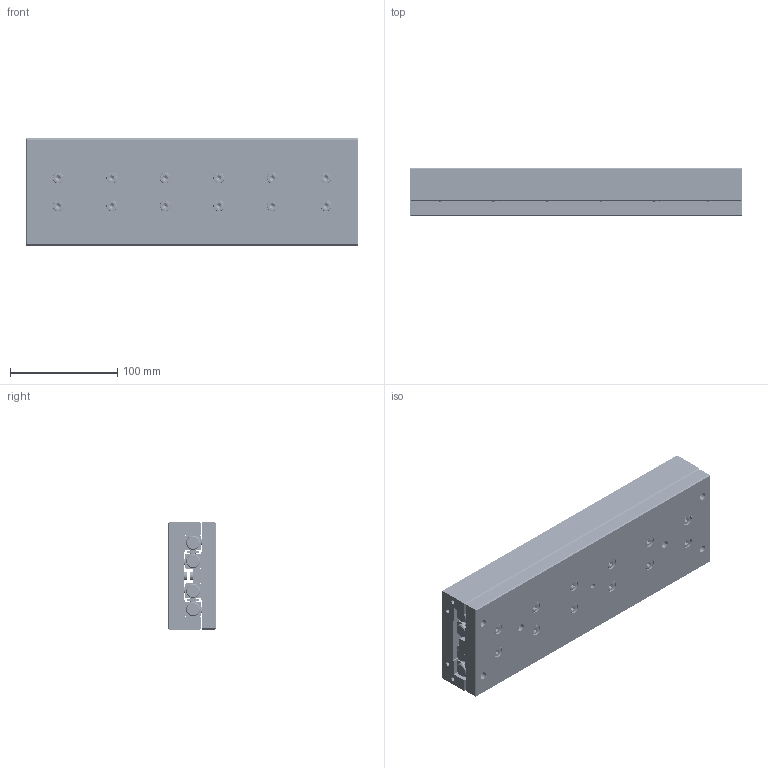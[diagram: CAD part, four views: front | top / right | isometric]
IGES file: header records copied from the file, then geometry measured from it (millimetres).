
Start section: SolidWorks IGES file using analytic representation for surfaces
Global section: file name: C:\Documents and Settings\IanO.IANOHOME\My Documents\Wix and Auto CAD Work\CAD Models\Parametric Models\Auto Models\L1020\L1020_IGES\L1020.100-310.igs; native system: SolidWorks 2009; preprocessor: SolidWorks 2009; author: IanO; date: 110922.162957; units: millimetre
Bounding box: 310 x 45 x 100 mm (x, y, z)
Surface area: 309771.5 mm2 (no closed solid volume)
Topology: 0 solids, 0 shells, 1918 faces, 27920 edges, 27860 vertices
Faces by surface type: bspline 1202, revolution 716
